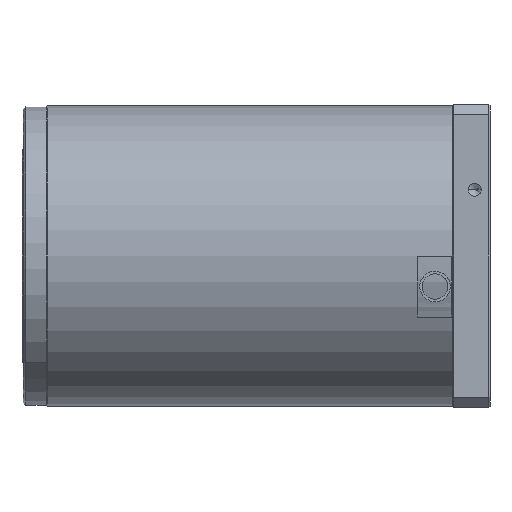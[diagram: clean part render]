
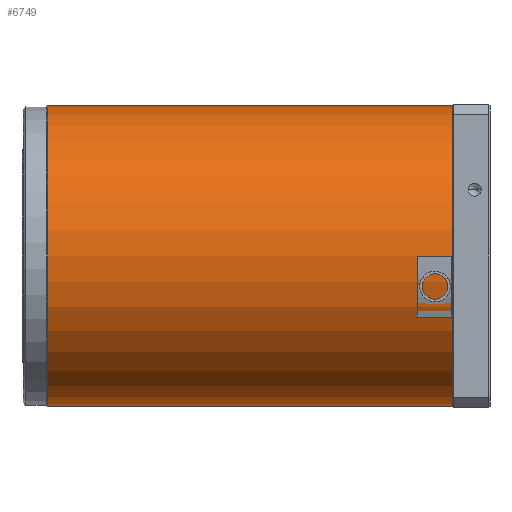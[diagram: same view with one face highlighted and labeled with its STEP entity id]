
A CAD part, left-side view. The second image highlights one B-rep face of the part: STEP entity #6749.
In plain terms, the highlighted cylindrical face has radius 29.5 mm (diameter 59 mm), a partial arc.
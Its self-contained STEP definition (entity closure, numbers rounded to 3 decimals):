
#314 = AXIS2_PLACEMENT_3D ( 'NONE', #8367, #4801, #2179 ) ;
#549 = CARTESIAN_POINT ( 'NONE',  ( 0., -19.41, 0. ) ) ;
#957 = CARTESIAN_POINT ( 'NONE',  ( 0., 60.29, 0. ) ) ;
#2179 = DIRECTION ( 'NONE',  ( 0., 0., -1. ) ) ;
#2286 = DIRECTION ( 'NONE',  ( 0., -1., 0. ) ) ;
#2423 = VERTEX_POINT ( 'NONE', #3238 ) ;
#2467 = CARTESIAN_POINT ( 'NONE',  ( 0., 60.29, -29.5 ) ) ;
#3238 = CARTESIAN_POINT ( 'NONE',  ( 0., -19.41, 29.5 ) ) ;
#3311 = VERTEX_POINT ( 'NONE', #8402 ) ;
#3468 = VECTOR ( 'NONE', #2286, 1000. ) ;
#3647 = ORIENTED_EDGE ( 'NONE', *, *, #4664, .F. ) ;
#3888 = LINE ( 'NONE', #7628, #3468 ) ;
#4001 = VERTEX_POINT ( 'NONE', #2467 ) ;
#4106 = DIRECTION ( 'NONE',  ( 0., 0., -1. ) ) ;
#4433 = AXIS2_PLACEMENT_3D ( 'NONE', #549, #9394, #4106 ) ;
#4664 = EDGE_CURVE ( 'NONE', #3311, #2423, #7080, .T. ) ;
#4703 = FACE_OUTER_BOUND ( 'NONE', #6633, .T. ) ;
#4801 = DIRECTION ( 'NONE',  ( 0., 1., 0. ) ) ;
#5137 = CARTESIAN_POINT ( 'NONE',  ( 0., -19.41, -29.5 ) ) ;
#5493 = ORIENTED_EDGE ( 'NONE', *, *, #11226, .T. ) ;
#5753 = ORIENTED_EDGE ( 'NONE', *, *, #11155, .T. ) ;
#5760 = VERTEX_POINT ( 'NONE', #5137 ) ;
#5952 = CIRCLE ( 'NONE', #314, 29.5 ) ;
#6574 = CIRCLE ( 'NONE', #4433, 29.5 ) ;
#6633 = EDGE_LOOP ( 'NONE', ( #11526, #5493, #5753, #3647 ) ) ;
#6749 = ADVANCED_FACE ( 'NONE', ( #4703 ), #10720, .T. ) ;
#6782 = EDGE_CURVE ( 'NONE', #4001, #3311, #5952, .T. ) ;
#7080 = LINE ( 'NONE', #10628, #8616 ) ;
#7209 = DIRECTION ( 'NONE',  ( 0., -1., 0. ) ) ;
#7628 = CARTESIAN_POINT ( 'NONE',  ( 0., 60.29, -29.5 ) ) ;
#8232 = AXIS2_PLACEMENT_3D ( 'NONE', #957, #7209, #9324 ) ;
#8367 = CARTESIAN_POINT ( 'NONE',  ( 0., 60.29, 0. ) ) ;
#8402 = CARTESIAN_POINT ( 'NONE',  ( 0., 60.29, 29.5 ) ) ;
#8616 = VECTOR ( 'NONE', #10587, 1000. ) ;
#9324 = DIRECTION ( 'NONE',  ( 0., 0., 1. ) ) ;
#9394 = DIRECTION ( 'NONE',  ( 0., 1., 0. ) ) ;
#10587 = DIRECTION ( 'NONE',  ( 0., -1., 0. ) ) ;
#10628 = CARTESIAN_POINT ( 'NONE',  ( 0., 60.29, 29.5 ) ) ;
#10720 = CYLINDRICAL_SURFACE ( 'NONE', #8232, 29.5 ) ;
#11155 = EDGE_CURVE ( 'NONE', #5760, #2423, #6574, .T. ) ;
#11226 = EDGE_CURVE ( 'NONE', #4001, #5760, #3888, .T. ) ;
#11526 = ORIENTED_EDGE ( 'NONE', *, *, #6782, .F. ) ;
